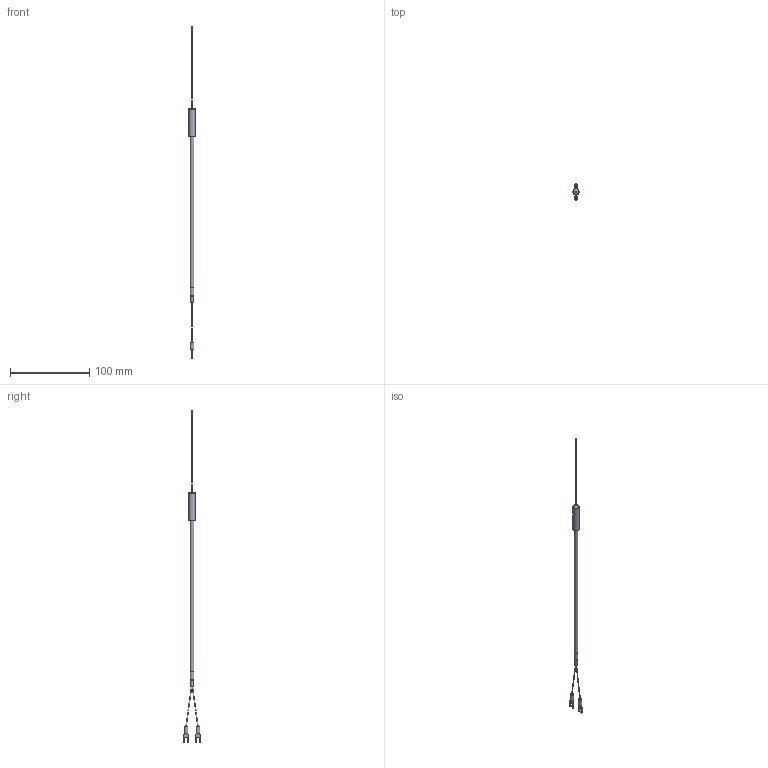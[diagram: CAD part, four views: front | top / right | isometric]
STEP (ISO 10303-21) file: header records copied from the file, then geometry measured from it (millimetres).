
FILE_DESCRIPTION (( 'STEP AP203' ), '1' );
FILE_NAME ('YIT101S-6(0).STEP', '2024-05-02T06:51:40', ( '' ), ( '' ), 'SwSTEP 2.0', 'SolidWorks 2021', '' );
FILE_SCHEMA (( 'CONFIG_CONTROL_DESIGN' ));
Length unit declared in the file: millimetre
Products named in the file (1): YIT101S-6(0)
Bounding box: 8 x 20.85 x 420 mm (x, y, z)
Volume: 5983.2 mm3; surface area: 5212 mm2
Topology: 1 solids, 1 shells, 68 faces, 163 edges, 106 vertices
Faces by surface type: plane 35, cylinder 21, bspline 8, torus 2, cone 2
Full cylindrical faces by diameter (mm): 1 x1, 3.16 x1, 4.5 x2, 4.8 x1, 5 x1, 8 x1
Entity records: 2112 total; most frequent: CARTESIAN_POINT 532, DIRECTION 304, ORIENTED_EDGE 292, EDGE_CURVE 146, AXIS2_PLACEMENT_3D 109, VERTEX_POINT 102, EDGE_LOOP 90, LINE 86
